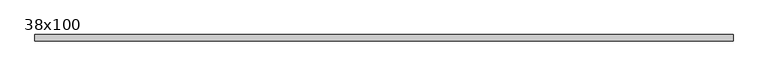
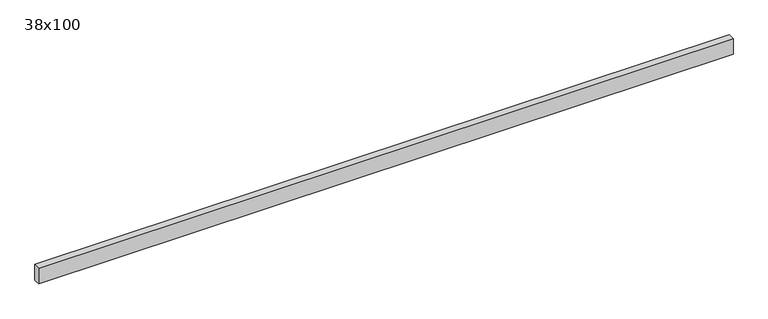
"""IFC4 building model written with IfcOpenShell, lengths in millimetres: beam geometry, Poutre - Bois de construction de dimensions courantes : 38x100."""

from ifc_helpers import new_model, si_unit, frame, origin, place, context, project, spatial, polyline, outline, extrude, source, transform, mapped, element, save


def beam_38x100_ba1c70ec(model_context):
    return source(origin(), model_context, "Body", "SweptSolid", [
        extrude(outline(polyline([(2020.5, 19.05), (2020.5, -19.05), (-2170.5, -19.05), (-2170.5, 19.05), (2020.5, 19.05)])), frame((0.0, 0.0, -50.0), z_axis=(0.0, 0.0, 1.0), x_axis=(1.0, 0.0, 0.0)), (0.0, 0.0, 1.0), 100.0),
    ])


if __name__ == "__main__":
    model = new_model("IFC4")
    model_context = context("Model", 3, world=origin())
    ifc_project = project(units=[si_unit("LENGTHUNIT", "METRE", prefix="MILLI")], contexts=[model_context])
    site = spatial("IfcSite", under=ifc_project)
    building = spatial("IfcBuilding", under=site)
    placement = place(None, origin())
    beam_38x100_shape = beam_38x100_ba1c70ec(model_context)
    element("IfcBeam", 1, ObjectType="Poutre - Bois de construction de dimensions courantes : 38x100", at=placement, inside=building, context=model_context, shape_type="MappedRepresentation", body=[
        mapped(beam_38x100_shape, transform((0.0, 0.0, 0.0), x_axis=(1.0, 0.0, 0.0), y_axis=(0.0, 1.0, 0.0), z_axis=(0.0, 0.0, 1.0))),
    ])
    save(model, "model.ifc")
